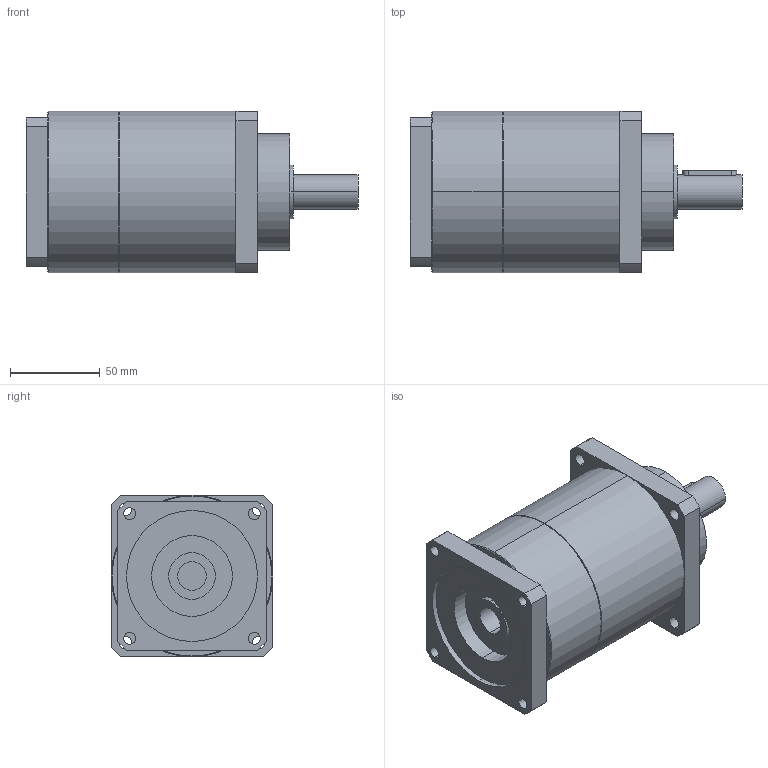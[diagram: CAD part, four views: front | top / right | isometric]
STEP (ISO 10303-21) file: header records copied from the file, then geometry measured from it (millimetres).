
FILE_DESCRIPTION(('CoCreate Modeling STEP Export'),'2;1');
FILE_NAME('GPT90_ig-9-12-16-20-25-28-35-40-50-70-100_19_B5T_16_P05.stp','2015-02-04T11:31:51',(''),(''),'CoCreate Modeling STEP processor for AP214 (Solid Model)','CoCreate Modeling 16.00C 25-Feb-2009 (C) Parametric Technology GmbH','');
FILE_SCHEMA(('AUTOMOTIVE_DESIGN { 1 0 10303 214 1 1 1 1 }'));
Length unit declared in the file: millimetre
Products named in the file (2): GPT90_ig-9-12-16-20-25-28-35-40-50-70-100_19_B5T_16_P05
Assembly tree (1 placements, depth 2):
  GPT90_ig-9-12-16-20-25-28-35-40-50-70-100_19_B5T_16_P05
    GPT90_ig-9-12-16-20-25-28-35-40-50-70-100_19_B5T_16_P05
Bounding box: 185 x 90 x 90 mm (x, y, z)
Volume: 881184.4 mm3; surface area: 67485.2 mm2
Topology: 1 solids, 1 shells, 84 faces, 221 edges, 148 vertices
Faces by surface type: cylinder 46, plane 34, cone 4
Entity records: 2695 total; most frequent: CARTESIAN_POINT 754, ORIENTED_EDGE 442, DIRECTION 330, EDGE_CURVE 221, VERTEX_POINT 148, AXIS2_PLACEMENT_3D 121, EDGE_LOOP 109, VECTOR 88
